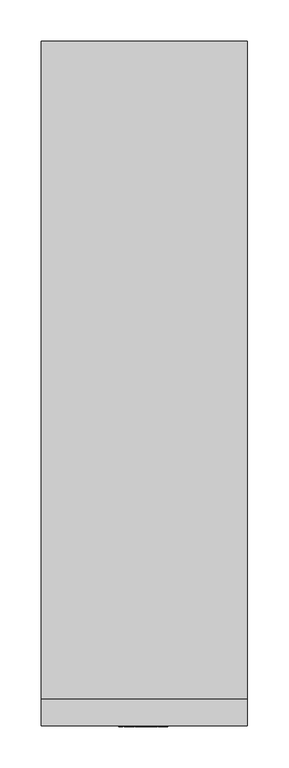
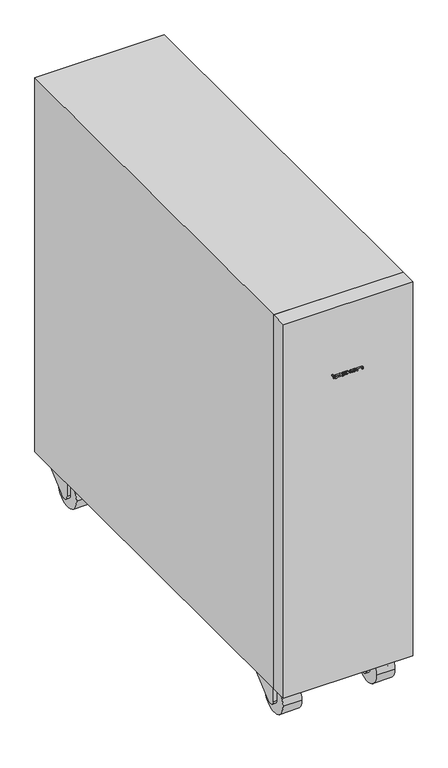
"""IFC4 building model written with IfcOpenShell, lengths in millimetres: proxy geometry, IPPON_EBM_Innova RT 33 Tower_20000_40000ВА : EBM Innova RT 33 Tower 20000 ВА."""

from ifc_helpers import new_model, si_unit, point, frame, frame_2d, origin, place, context, project, spatial, polyline, circle_curve, trimmed, segment, composite_curve, outline, extrude, source, transform, mapped, element, save
from ifc_brep_helpers import plane_surface, cylinder_surface, advanced_brep


def electrical_equipment_acadec03(model_context):
    return source(origin(), model_context, "Body", "SolidModel", [
        extrude(outline(polyline([(-29.1718133, -1.0), (-31.1718133, -1.0), (-31.1718133, 0.0), (-29.1718133, 0.0), (-29.1718133, -1.0)])), frame((0.0, 0.0, 695.4695835), z_axis=(0.0, 0.0, 1.0), x_axis=(1.0, 0.0, 0.0)), (0.0, 0.0, 1.0), 2.3),
        extrude(outline(polyline([(18.6035474, -1.0), (16.6035474, -1.0), (16.6035474, 0.0), (18.6035474, 0.0), (18.6035474, -1.0)])), frame((0.0, 0.0, 689.4695835), z_axis=(0.0, 0.0, 1.0), x_axis=(1.0, 0.0, 0.0)), (0.0, 0.0, 1.0), 2.2268231),
        extrude(outline(polyline([(-26.438565, -1.0), (-28.4833324, -1.0), (-28.4833324, 0.0), (-26.438565, 0.0), (-26.438565, -1.0)])), frame((0.0, 0.0, 689.4695835), z_axis=(0.0, 0.0, 1.0), x_axis=(1.0, 0.0, 0.0)), (0.0, 0.0, 1.0), 6.0),
        extrude(outline(composite_curve([segment(polyline([(693.2071435, -24.2241109), (693.2071435, -14.9923536)]), True, "CONTINUOUS"), segment(trimmed(circle_curve(frame_2d((692.3506642, -14.9923536)), 0.8564793), [point((693.2071435, -14.9923536))], [point((691.4941849, -14.9923536))], True, "CARTESIAN"), True, "CONTINUOUS"), segment(polyline([(691.4941849, -14.9923536), (691.4941849, -24.2241109), (688.0036803, -24.2241109), (688.0036803, -22.2241109), (689.4695835, -22.2241109), (689.4695835, -15.1486036)]), True, "CONTINUOUS"), segment(trimmed(circle_curve(frame_2d((692.4695835, -15.1486036)), 3.0), [point((689.4695835, -15.1486036))], [point((695.4695835, -15.1486036))], False, "CARTESIAN"), True, "CONTINUOUS"), segment(polyline([(695.4695835, -15.1486036), (695.4695835, -24.2241109), (693.2071435, -24.2241109)]), True, "CONTINUOUS")], self_intersect=False)), frame((0.0, -1.0, 0.0), z_axis=(0.0, 1.0, 0.0), x_axis=(0.0, 0.0, 1.0)), (0.0, 0.0, 1.0), 1.0),
        extrude(outline(composite_curve([segment(polyline([(693.2071435, -11.0171091), (693.2071435, -1.7853518)]), True, "CONTINUOUS"), segment(trimmed(circle_curve(frame_2d((692.3506642, -1.7853518)), 0.8564793), [point((693.2071435, -1.7853518))], [point((691.4941849, -1.7853518))], True, "CARTESIAN"), True, "CONTINUOUS"), segment(polyline([(691.4941849, -1.7853518), (691.4941849, -11.0171091), (688.0036803, -11.0171091), (688.0036803, -9.0171091), (689.4695835, -9.0171091), (689.4695835, -1.9416018)]), True, "CONTINUOUS"), segment(trimmed(circle_curve(frame_2d((692.4695835, -1.9416018)), 3.0), [point((689.4695835, -1.9416018))], [point((695.4695835, -1.9416018))], False, "CARTESIAN"), True, "CONTINUOUS"), segment(polyline([(695.4695835, -1.9416018), (695.4695835, -11.0171091), (693.2071435, -11.0171091)]), True, "CONTINUOUS")], self_intersect=False)), frame((0.0, -1.0, 0.0), z_axis=(0.0, 1.0, 0.0), x_axis=(0.0, 0.0, 1.0)), (0.0, 0.0, 1.0), 1.0),
        extrude(outline(composite_curve([segment(trimmed(circle_curve(frame_2d((692.4695835, 12.558657)), 3.0), [point((689.4695835, 12.558657))], [point((695.4695835, 12.558657))], False, "CARTESIAN"), True, "CONTINUOUS"), segment(polyline([(695.4695835, 12.558657), (695.4695835, 4.958657)]), True, "CONTINUOUS"), segment(trimmed(circle_curve(frame_2d((692.4695835, 4.958657)), 3.0), [point((695.4695835, 4.958657))], [point((689.4695835, 4.958657))], False, "CARTESIAN"), True, "CONTINUOUS"), segment(polyline([(689.4695835, 4.958657), (689.4695835, 12.558657)]), True, "CONTINUOUS")], self_intersect=False), holes=[composite_curve([segment(polyline([(691.4941849, 12.714907), (691.4941849, 4.802407)]), True, "CONTINUOUS"), segment(trimmed(circle_curve(frame_2d((692.3506642, 4.802407)), 0.8564793), [point((691.4941849, 4.802407))], [point((693.2071435, 4.802407))], True, "CARTESIAN"), True, "CONTINUOUS"), segment(polyline([(693.2071435, 4.802407), (693.2071435, 12.714907)]), True, "CONTINUOUS"), segment(trimmed(circle_curve(frame_2d((692.3506642, 12.714907)), 0.8564793), [point((693.2071435, 12.714907))], [point((691.4941849, 12.714907))], True, "CARTESIAN"), True, "CONTINUOUS")], self_intersect=False)]), frame((0.0, -1.0, 0.0), z_axis=(0.0, 1.0, 0.0), x_axis=(0.0, 0.0, 1.0)), (0.0, 0.0, 1.0), 1.0),
        extrude(outline(composite_curve([segment(polyline([(693.2071435, 16.6035474), (693.2071435, 25.8353046)]), True, "CONTINUOUS"), segment(trimmed(circle_curve(frame_2d((692.3506642, 25.8353046)), 0.8564793), [point((693.2071435, 25.8353046))], [point((692.3506642, 26.6917839))], True, "CARTESIAN"), True, "CONTINUOUS"), segment(polyline([(692.3506642, 26.6917839), (689.4695835, 26.6917839), (689.4695835, 28.6317921), (693.0, 28.6317921)]), True, "CONTINUOUS"), segment(trimmed(circle_curve(frame_2d((692.4695835, 25.6790546)), 3.0), [point((693.0, 28.6317921))], [point((695.4695835, 25.6790546))], False, "CARTESIAN"), True, "CONTINUOUS"), segment(polyline([(695.4695835, 25.6790546), (695.4695835, 16.6035474), (693.2071435, 16.6035474)]), True, "CONTINUOUS")], self_intersect=False)), frame((0.0, -1.0, 0.0), z_axis=(0.0, 1.0, 0.0), x_axis=(0.0, 0.0, 1.0)), (0.0, 0.0, 1.0), 1.0),
        advanced_brep(
        [(-108.0, 780.0, 30.0), (-108.0, 720.0, 30.0), (-108.0, 740.0, 58.2842712), (-108.0, 740.0, 30.0), (-108.0, 758.2371094, 24.3299005), (-108.0, 777.8711425, 41.0995231), (-72.0, 720.0, 30.0), (-72.0, 780.0, 30.0), (-72.0, 777.8711425, 41.0995231), (-72.0, 758.2371094, 24.3299005), (-72.0, 740.0, 30.0), (-72.0, 740.0, 58.2842712), (-115.0, 740.0, 30.0), (-115.0, 740.0, 70.0), (-115.0, 800.0, 70.0), (-115.0, 800.0, 60.0), (-115.0, 758.2371094, 24.3299005), (-65.0, 740.0, 30.0), (-65.0, 758.2371094, 24.3299005), (-65.0, 800.0, 60.0), (-65.0, 800.0, 70.0), (-65.0, 740.0, 70.0)],
        [
            (0, 1, circle_curve(frame((-108.0, 750.0, 30.0), z_axis=(-1.0, 0.0, 0.0), x_axis=(0.0, -1.0, 0.0)), 30.0)),
            (1, 2, circle_curve(frame((-108.0, 750.0, 30.0), z_axis=(-1.0, 0.0, 0.0), x_axis=(0.0, -1.0, 0.0)), 30.0)),
            (2, 3),
            (3, 4, circle_curve(frame((-108.0, 750.0, 30.0), z_axis=(1.0, 0.0, 0.0), x_axis=(0.0, -1.0, 0.0)), 10.0)),
            (4, 5),
            (5, 0, circle_curve(frame((-108.0, 750.0, 30.0), z_axis=(-1.0, 0.0, 0.0), x_axis=(0.0, -1.0, 0.0)), 30.0)),
            (6, 7, circle_curve(frame((-72.0, 750.0, 30.0), z_axis=(1.0, 0.0, 0.0), x_axis=(0.0, -1.0, 0.0)), 30.0)),
            (7, 8, circle_curve(frame((-72.0, 750.0, 30.0), z_axis=(1.0, 0.0, 0.0), x_axis=(0.0, -1.0, 0.0)), 30.0)),
            (8, 9),
            (9, 10, circle_curve(frame((-72.0, 750.0, 30.0), z_axis=(-1.0, 0.0, 0.0), x_axis=(0.0, -1.0, 0.0)), 10.0)),
            (10, 11),
            (11, 6, circle_curve(frame((-72.0, 750.0, 30.0), z_axis=(1.0, 0.0, 0.0), x_axis=(0.0, -1.0, 0.0)), 30.0)),
            (0, 7),
            (6, 1),
            (5, 8),
            (11, 2),
            (12, 13),
            (13, 14),
            (14, 15),
            (15, 16),
            (16, 12, circle_curve(frame((-115.0, 750.0, 30.0), z_axis=(-1.0, 0.0, 0.0), x_axis=(0.0, -1.0, 0.0)), 10.0)),
            (17, 18, circle_curve(frame((-65.0, 750.0, 30.0), z_axis=(1.0, 0.0, 0.0), x_axis=(0.0, -1.0, 0.0)), 10.0)),
            (18, 19),
            (19, 20),
            (20, 21),
            (21, 17),
            (12, 3),
            (10, 17),
            (21, 13),
            (20, 14),
            (19, 15),
            (18, 9),
            (4, 16),
        ],
        [
            plane_surface(frame((-108.0, 720.0, 30.0), z_axis=(-1.0, 0.0, 0.0), x_axis=(0.0, 0.0, 1.0))),
            plane_surface(frame((-72.0, 720.0, 30.0), z_axis=(1.0, 0.0, 0.0), x_axis=(0.0, 0.0, -1.0))),
            cylinder_surface(frame((-72.0, 750.0, 30.0), z_axis=(-1.0, 0.0, 0.0), x_axis=(0.0, -1.0, 0.0)), 30.0),
            plane_surface(frame((-115.0, 740.0, 70.0), z_axis=(-1.0, 0.0, 0.0), x_axis=(0.0, 0.0, 1.0))),
            plane_surface(frame((-65.0, 740.0, 70.0), z_axis=(1.0, 0.0, 0.0), x_axis=(0.0, 0.0, -1.0))),
            plane_surface(frame((-115.0, 740.0, 30.0), z_axis=(0.0, -1.0, 0.0), x_axis=(1.0, 0.0, 0.0))),
            plane_surface(frame((-115.0, 740.0, 70.0), z_axis=(0.0, 0.0, 1.0), x_axis=(1.0, 0.0, 0.0))),
            plane_surface(frame((-115.0, 800.0, 70.0), z_axis=(0.0, 1.0, 0.0), x_axis=(1.0, 0.0, 0.0))),
            plane_surface(frame((-115.0, 800.0, 60.0), z_axis=(0.0, 0.6494609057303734, -0.7603949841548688), x_axis=(1.0, 0.0, 0.0))),
            cylinder_surface(frame((-65.0, 750.0, 30.0), z_axis=(-1.0, 0.0, 0.0), x_axis=(0.0, -1.0, 0.0)), 10.0),
        ],
        [
            (0, [[1, 2, 3, 4, 5, 6]]),
            (1, [[7, 8, 9, 10, 11, 12]]),
            (2, [[-1, 13, -7, 14]]),
            (2, [[-13, -6, 15, -8]]),
            (2, [[-14, -12, 16, -2]]),
            (3, [[17, 18, 19, 20, 21]]),
            (4, [[22, 23, 24, 25, 26]]),
            (5, [[-17, 27, -3, -16, -11, 28, -26, 29]]),
            (6, [[-18, -29, -25, 30]]),
            (7, [[-19, -30, -24, 31]]),
            (8, [[-20, -31, -23, 32, -9, -15, -5, 33]]),
            (9, [[-21, -33, -4, -27]]),
            (9, [[-22, -28, -10, -32]]),
        ],
    ),
        advanced_brep(
        [(72.0, 780.0, 30.0), (72.0, 720.0, 30.0), (72.0, 740.0, 58.2842712), (72.0, 740.0, 30.0), (72.0, 758.2371094, 24.3299005), (72.0, 777.8711425, 41.0995231), (108.0, 720.0, 30.0), (108.0, 780.0, 30.0), (108.0, 777.8711425, 41.0995231), (108.0, 758.2371094, 24.3299005), (108.0, 740.0, 30.0), (108.0, 740.0, 58.2842712), (65.0, 740.0, 30.0), (65.0, 740.0, 70.0), (65.0, 800.0, 70.0), (65.0, 800.0, 60.0), (65.0, 758.2371094, 24.3299005), (115.0, 740.0, 30.0), (115.0, 758.2371094, 24.3299005), (115.0, 800.0, 60.0), (115.0, 800.0, 70.0), (115.0, 740.0, 70.0)],
        [
            (0, 1, circle_curve(frame((72.0, 750.0, 30.0), z_axis=(-1.0, 0.0, 0.0), x_axis=(0.0, -1.0, 0.0)), 30.0)),
            (1, 2, circle_curve(frame((72.0, 750.0, 30.0), z_axis=(-1.0, 0.0, 0.0), x_axis=(0.0, -1.0, 0.0)), 30.0)),
            (2, 3),
            (3, 4, circle_curve(frame((72.0, 750.0, 30.0), z_axis=(1.0, 0.0, 0.0), x_axis=(0.0, -1.0, 0.0)), 10.0)),
            (4, 5),
            (5, 0, circle_curve(frame((72.0, 750.0, 30.0), z_axis=(-1.0, 0.0, 0.0), x_axis=(0.0, -1.0, 0.0)), 30.0)),
            (6, 7, circle_curve(frame((108.0, 750.0, 30.0), z_axis=(1.0, 0.0, 0.0), x_axis=(0.0, -1.0, 0.0)), 30.0)),
            (7, 8, circle_curve(frame((108.0, 750.0, 30.0), z_axis=(1.0, 0.0, 0.0), x_axis=(0.0, -1.0, 0.0)), 30.0)),
            (8, 9),
            (9, 10, circle_curve(frame((108.0, 750.0, 30.0), z_axis=(-1.0, 0.0, 0.0), x_axis=(0.0, -1.0, 0.0)), 10.0)),
            (10, 11),
            (11, 6, circle_curve(frame((108.0, 750.0, 30.0), z_axis=(1.0, 0.0, 0.0), x_axis=(0.0, -1.0, 0.0)), 30.0)),
            (0, 7),
            (6, 1),
            (5, 8),
            (11, 2),
            (12, 13),
            (13, 14),
            (14, 15),
            (15, 16),
            (16, 12, circle_curve(frame((65.0, 750.0, 30.0), z_axis=(-1.0, 0.0, 0.0), x_axis=(0.0, -1.0, 0.0)), 10.0)),
            (17, 18, circle_curve(frame((115.0, 750.0, 30.0), z_axis=(1.0, 0.0, 0.0), x_axis=(0.0, -1.0, 0.0)), 10.0)),
            (18, 19),
            (19, 20),
            (20, 21),
            (21, 17),
            (12, 3),
            (10, 17),
            (21, 13),
            (20, 14),
            (19, 15),
            (18, 9),
            (4, 16),
        ],
        [
            plane_surface(frame((72.0, 720.0, 30.0), z_axis=(-1.0, 0.0, 0.0), x_axis=(0.0, 0.0, 1.0))),
            plane_surface(frame((108.0, 720.0, 30.0), z_axis=(1.0, 0.0, 0.0), x_axis=(0.0, 0.0, -1.0))),
            cylinder_surface(frame((108.0, 750.0, 30.0), z_axis=(-1.0, 0.0, 0.0), x_axis=(0.0, -1.0, 0.0)), 30.0),
            plane_surface(frame((65.0, 740.0, 70.0), z_axis=(-1.0, 0.0, 0.0), x_axis=(0.0, 0.0, 1.0))),
            plane_surface(frame((115.0, 740.0, 70.0), z_axis=(1.0, 0.0, 0.0), x_axis=(0.0, 0.0, -1.0))),
            plane_surface(frame((65.0, 740.0, 30.0), z_axis=(0.0, -1.0, 0.0), x_axis=(1.0, 0.0, 0.0))),
            plane_surface(frame((65.0, 740.0, 70.0), z_axis=(0.0, 0.0, 1.0), x_axis=(1.0, 0.0, 0.0))),
            plane_surface(frame((65.0, 800.0, 70.0), z_axis=(0.0, 1.0, 0.0), x_axis=(1.0, 0.0, 0.0))),
            plane_surface(frame((65.0, 800.0, 60.0), z_axis=(0.0, 0.6494609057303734, -0.7603949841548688), x_axis=(1.0, 0.0, 0.0))),
            cylinder_surface(frame((115.0, 750.0, 30.0), z_axis=(-1.0, 0.0, 0.0), x_axis=(0.0, -1.0, 0.0)), 10.0),
        ],
        [
            (0, [[1, 2, 3, 4, 5, 6]]),
            (1, [[7, 8, 9, 10, 11, 12]]),
            (2, [[-1, 13, -7, 14]]),
            (2, [[-13, -6, 15, -8]]),
            (2, [[-14, -12, 16, -2]]),
            (3, [[17, 18, 19, 20, 21]]),
            (4, [[22, 23, 24, 25, 26]]),
            (5, [[-17, 27, -3, -16, -11, 28, -26, 29]]),
            (6, [[-18, -29, -25, 30]]),
            (7, [[-19, -30, -24, 31]]),
            (8, [[-20, -31, -23, 32, -9, -15, -5, 33]]),
            (9, [[-21, -33, -4, -27]]),
            (9, [[-22, -28, -10, -32]]),
        ],
    ),
        advanced_brep(
        [(-108.0, 90.0, 30.0), (-108.0, 30.0, 30.0), (-108.0, 50.0, 58.2842712), (-108.0, 50.0, 30.0), (-108.0, 68.2371094, 24.3299005), (-108.0, 87.8711425, 41.0995231), (-72.0, 30.0, 30.0), (-72.0, 90.0, 30.0), (-72.0, 87.8711425, 41.0995231), (-72.0, 68.2371094, 24.3299005), (-72.0, 50.0, 30.0), (-72.0, 50.0, 58.2842712), (-115.0, 50.0, 30.0), (-115.0, 50.0, 70.0), (-115.0, 110.0, 70.0), (-115.0, 110.0, 60.0), (-115.0, 68.2371094, 24.3299005), (-65.0, 50.0, 30.0), (-65.0, 68.2371094, 24.3299005), (-65.0, 110.0, 60.0), (-65.0, 110.0, 70.0), (-65.0, 50.0, 70.0)],
        [
            (0, 1, circle_curve(frame((-108.0, 60.0, 30.0), z_axis=(-1.0, 0.0, 0.0), x_axis=(0.0, -1.0, 0.0)), 30.0)),
            (1, 2, circle_curve(frame((-108.0, 60.0, 30.0), z_axis=(-1.0, 0.0, 0.0), x_axis=(0.0, -1.0, 0.0)), 30.0)),
            (2, 3),
            (3, 4, circle_curve(frame((-108.0, 60.0, 30.0), z_axis=(1.0, 0.0, 0.0), x_axis=(0.0, -1.0, 0.0)), 10.0)),
            (4, 5),
            (5, 0, circle_curve(frame((-108.0, 60.0, 30.0), z_axis=(-1.0, 0.0, 0.0), x_axis=(0.0, -1.0, 0.0)), 30.0)),
            (6, 7, circle_curve(frame((-72.0, 60.0, 30.0), z_axis=(1.0, 0.0, 0.0), x_axis=(0.0, -1.0, 0.0)), 30.0)),
            (7, 8, circle_curve(frame((-72.0, 60.0, 30.0), z_axis=(1.0, 0.0, 0.0), x_axis=(0.0, -1.0, 0.0)), 30.0)),
            (8, 9),
            (9, 10, circle_curve(frame((-72.0, 60.0, 30.0), z_axis=(-1.0, 0.0, 0.0), x_axis=(0.0, -1.0, 0.0)), 10.0)),
            (10, 11),
            (11, 6, circle_curve(frame((-72.0, 60.0, 30.0), z_axis=(1.0, 0.0, 0.0), x_axis=(0.0, -1.0, 0.0)), 30.0)),
            (0, 7),
            (6, 1),
            (5, 8),
            (11, 2),
            (12, 13),
            (13, 14),
            (14, 15),
            (15, 16),
            (16, 12, circle_curve(frame((-115.0, 60.0, 30.0), z_axis=(-1.0, 0.0, 0.0), x_axis=(0.0, -1.0, 0.0)), 10.0)),
            (17, 18, circle_curve(frame((-65.0, 60.0, 30.0), z_axis=(1.0, 0.0, 0.0), x_axis=(0.0, -1.0, 0.0)), 10.0)),
            (18, 19),
            (19, 20),
            (20, 21),
            (21, 17),
            (12, 3),
            (10, 17),
            (21, 13),
            (20, 14),
            (19, 15),
            (18, 9),
            (4, 16),
        ],
        [
            plane_surface(frame((-108.0, 30.0, 30.0), z_axis=(-1.0, 0.0, 0.0), x_axis=(0.0, 0.0, 1.0))),
            plane_surface(frame((-72.0, 30.0, 30.0), z_axis=(1.0, 0.0, 0.0), x_axis=(0.0, 0.0, -1.0))),
            cylinder_surface(frame((-72.0, 60.0, 30.0), z_axis=(-1.0, 0.0, 0.0), x_axis=(0.0, -1.0, 0.0)), 30.0),
            plane_surface(frame((-115.0, 50.0, 70.0), z_axis=(-1.0, 0.0, 0.0), x_axis=(0.0, 0.0, 1.0))),
            plane_surface(frame((-65.0, 50.0, 70.0), z_axis=(1.0, 0.0, 0.0), x_axis=(0.0, 0.0, -1.0))),
            plane_surface(frame((-115.0, 50.0, 30.0), z_axis=(0.0, -1.0, 0.0), x_axis=(1.0, 0.0, 0.0))),
            plane_surface(frame((-115.0, 50.0, 70.0), z_axis=(0.0, 0.0, 1.0), x_axis=(1.0, 0.0, 0.0))),
            plane_surface(frame((-115.0, 110.0, 70.0), z_axis=(0.0, 1.0, 0.0), x_axis=(1.0, 0.0, 0.0))),
            plane_surface(frame((-115.0, 110.0, 60.0), z_axis=(0.0, 0.6494609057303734, -0.7603949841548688), x_axis=(1.0, 0.0, 0.0))),
            cylinder_surface(frame((-65.0, 60.0, 30.0), z_axis=(-1.0, 0.0, 0.0), x_axis=(0.0, -1.0, 0.0)), 10.0),
        ],
        [
            (0, [[1, 2, 3, 4, 5, 6]]),
            (1, [[7, 8, 9, 10, 11, 12]]),
            (2, [[-1, 13, -7, 14]]),
            (2, [[-13, -6, 15, -8]]),
            (2, [[-14, -12, 16, -2]]),
            (3, [[17, 18, 19, 20, 21]]),
            (4, [[22, 23, 24, 25, 26]]),
            (5, [[-17, 27, -3, -16, -11, 28, -26, 29]]),
            (6, [[-18, -29, -25, 30]]),
            (7, [[-19, -30, -24, 31]]),
            (8, [[-20, -31, -23, 32, -9, -15, -5, 33]]),
            (9, [[-21, -33, -4, -27]]),
            (9, [[-22, -28, -10, -32]]),
        ],
    ),
        advanced_brep(
        [(72.0, 90.0, 30.0), (72.0, 30.0, 30.0), (72.0, 50.0, 58.2842712), (72.0, 50.0, 30.0), (72.0, 68.2371094, 24.3299005), (72.0, 87.8711425, 41.0995231), (108.0, 30.0, 30.0), (108.0, 90.0, 30.0), (108.0, 87.8711425, 41.0995231), (108.0, 68.2371094, 24.3299005), (108.0, 50.0, 30.0), (108.0, 50.0, 58.2842712), (65.0, 50.0, 30.0), (65.0, 50.0, 70.0), (65.0, 110.0, 70.0), (65.0, 110.0, 60.0), (65.0, 68.2371094, 24.3299005), (115.0, 50.0, 30.0), (115.0, 68.2371094, 24.3299005), (115.0, 110.0, 60.0), (115.0, 110.0, 70.0), (115.0, 50.0, 70.0)],
        [
            (0, 1, circle_curve(frame((72.0, 60.0, 30.0), z_axis=(-1.0, 0.0, 0.0), x_axis=(0.0, -1.0, 0.0)), 30.0)),
            (1, 2, circle_curve(frame((72.0, 60.0, 30.0), z_axis=(-1.0, 0.0, 0.0), x_axis=(0.0, -1.0, 0.0)), 30.0)),
            (2, 3),
            (3, 4, circle_curve(frame((72.0, 60.0, 30.0), z_axis=(1.0, 0.0, 0.0), x_axis=(0.0, -1.0, 0.0)), 10.0)),
            (4, 5),
            (5, 0, circle_curve(frame((72.0, 60.0, 30.0), z_axis=(-1.0, 0.0, 0.0), x_axis=(0.0, -1.0, 0.0)), 30.0)),
            (6, 7, circle_curve(frame((108.0, 60.0, 30.0), z_axis=(1.0, 0.0, 0.0), x_axis=(0.0, -1.0, 0.0)), 30.0)),
            (7, 8, circle_curve(frame((108.0, 60.0, 30.0), z_axis=(1.0, 0.0, 0.0), x_axis=(0.0, -1.0, 0.0)), 30.0)),
            (8, 9),
            (9, 10, circle_curve(frame((108.0, 60.0, 30.0), z_axis=(-1.0, 0.0, 0.0), x_axis=(0.0, -1.0, 0.0)), 10.0)),
            (10, 11),
            (11, 6, circle_curve(frame((108.0, 60.0, 30.0), z_axis=(1.0, 0.0, 0.0), x_axis=(0.0, -1.0, 0.0)), 30.0)),
            (0, 7),
            (6, 1),
            (5, 8),
            (11, 2),
            (12, 13),
            (13, 14),
            (14, 15),
            (15, 16),
            (16, 12, circle_curve(frame((65.0, 60.0, 30.0), z_axis=(-1.0, 0.0, 0.0), x_axis=(0.0, -1.0, 0.0)), 10.0)),
            (17, 18, circle_curve(frame((115.0, 60.0, 30.0), z_axis=(1.0, 0.0, 0.0), x_axis=(0.0, -1.0, 0.0)), 10.0)),
            (18, 19),
            (19, 20),
            (20, 21),
            (21, 17),
            (12, 3),
            (10, 17),
            (21, 13),
            (20, 14),
            (19, 15),
            (18, 9),
            (4, 16),
        ],
        [
            plane_surface(frame((72.0, 30.0, 30.0), z_axis=(-1.0, 0.0, 0.0), x_axis=(0.0, 0.0, 1.0))),
            plane_surface(frame((108.0, 30.0, 30.0), z_axis=(1.0, 0.0, 0.0), x_axis=(0.0, 0.0, -1.0))),
            cylinder_surface(frame((108.0, 60.0, 30.0), z_axis=(-1.0, 0.0, 0.0), x_axis=(0.0, -1.0, 0.0)), 30.0),
            plane_surface(frame((65.0, 50.0, 70.0), z_axis=(-1.0, 0.0, 0.0), x_axis=(0.0, 0.0, 1.0))),
            plane_surface(frame((115.0, 50.0, 70.0), z_axis=(1.0, 0.0, 0.0), x_axis=(0.0, 0.0, -1.0))),
            plane_surface(frame((65.0, 50.0, 30.0), z_axis=(0.0, -1.0, 0.0), x_axis=(1.0, 0.0, 0.0))),
            plane_surface(frame((65.0, 50.0, 70.0), z_axis=(0.0, 0.0, 1.0), x_axis=(1.0, 0.0, 0.0))),
            plane_surface(frame((65.0, 110.0, 70.0), z_axis=(0.0, 1.0, 0.0), x_axis=(1.0, 0.0, 0.0))),
            plane_surface(frame((65.0, 110.0, 60.0), z_axis=(0.0, 0.6494609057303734, -0.7603949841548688), x_axis=(1.0, 0.0, 0.0))),
            cylinder_surface(frame((115.0, 60.0, 30.0), z_axis=(-1.0, 0.0, 0.0), x_axis=(0.0, -1.0, 0.0)), 10.0),
        ],
        [
            (0, [[1, 2, 3, 4, 5, 6]]),
            (1, [[7, 8, 9, 10, 11, 12]]),
            (2, [[-1, 13, -7, 14]]),
            (2, [[-13, -6, 15, -8]]),
            (2, [[-14, -12, 16, -2]]),
            (3, [[17, 18, 19, 20, 21]]),
            (4, [[22, 23, 24, 25, 26]]),
            (5, [[-17, 27, -3, -16, -11, 28, -26, 29]]),
            (6, [[-18, -29, -25, 30]]),
            (7, [[-19, -30, -24, 31]]),
            (8, [[-20, -31, -23, 32, -9, -15, -5, 33]]),
            (9, [[-21, -33, -4, -27]]),
            (9, [[-22, -28, -10, -32]]),
        ],
    ),
        extrude(outline(polyline([(125.0, 0.0), (-125.0, 0.0), (-125.0, 32.0), (125.0, 32.0), (125.0, 0.0)])), frame((0.0, 0.0, 70.0), z_axis=(0.0, 0.0, 1.0), x_axis=(1.0, 0.0, 0.0)), (0.0, 0.0, 1.0), 763.0),
        extrude(outline(polyline([(125.0, 32.0), (-125.0, 32.0), (-125.0, 830.0), (125.0, 830.0), (125.0, 32.0)])), frame((0.0, 0.0, 70.0), z_axis=(0.0, 0.0, 1.0), x_axis=(1.0, 0.0, 0.0)), (0.0, 0.0, 1.0), 763.0),
    ])


if __name__ == "__main__":
    model = new_model("IFC4")
    model_context = context("Model", 3, world=origin())
    ifc_project = project(units=[si_unit("LENGTHUNIT", "METRE", prefix="MILLI")], contexts=[model_context])
    site = spatial("IfcSite", under=ifc_project)
    building = spatial("IfcBuilding", under=site)
    placement = place(None, origin())
    electrical_equipment_shape = electrical_equipment_acadec03(model_context)
    element("IfcBuildingElementProxy", 1, Name="IPPON_EBM_Innova RT 33 Tower_20000_40000ВА : EBM Innova RT 33 Tower 20000 ВА", ObjectType="IPPON_EBM_Innova RT 33 Tower_20000_40000ВА : EBM Innova RT 33 Tower 20000 ВА", at=placement, inside=building, context=model_context, shape_type="MappedRepresentation", body=[
        mapped(electrical_equipment_shape, transform((0.0, 0.0, 0.0), x_axis=(1.0, 0.0, 0.0), y_axis=(0.0, 1.0, 0.0), z_axis=(0.0, 0.0, 1.0))),
    ])
    save(model, "model.ifc")
